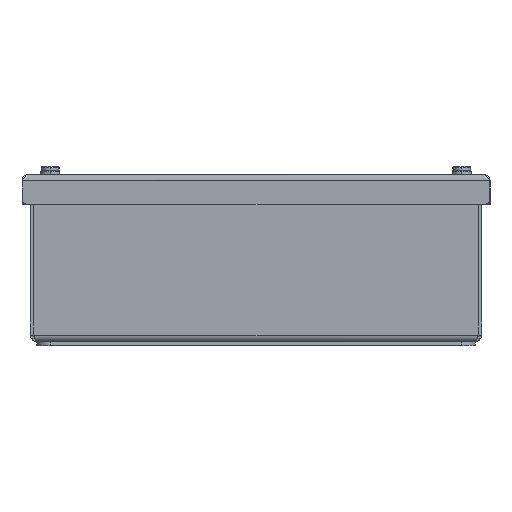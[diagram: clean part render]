
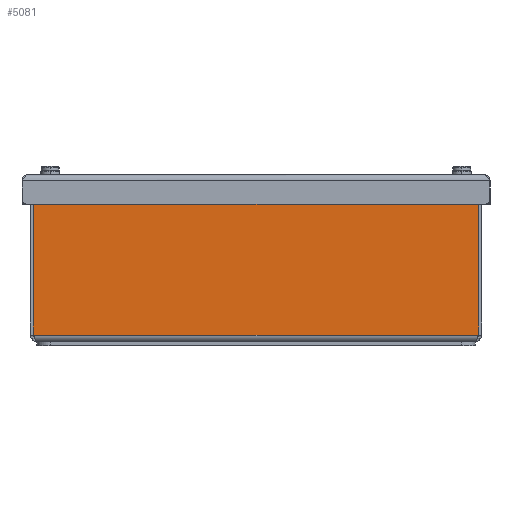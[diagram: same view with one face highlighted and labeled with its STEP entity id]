
A CAD part, left-side view. The second image highlights one B-rep face of the part: STEP entity #5081.
In plain terms, the highlighted planar face has unit normal (-1, 0, 0).
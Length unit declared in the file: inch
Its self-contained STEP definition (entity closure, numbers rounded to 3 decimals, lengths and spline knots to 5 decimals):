
#1255=DIRECTION('',(0.,-1.,0.));
#1256=VECTOR('',#1255,8.37033);
#1257=CARTESIAN_POINT('',(0.,8.43516,0.12));
#1258=LINE('',#1257,#1256);
#1341=CARTESIAN_POINT('',(0.,8.47,0.07744));
#1342=DIRECTION('',(1.,0.,0.));
#1343=DIRECTION('',(0.,-0.54,0.842));
#1344=AXIS2_PLACEMENT_3D('',#1341,#1342,#1343);
#1349=DIRECTION('',(0.,0.,1.));
#1350=VECTOR('',#1349,2.81357);
#1351=CARTESIAN_POINT('',(0.,8.4403,0.12373));
#1352=LINE('',#1351,#1350);
#1356=DIRECTION('',(0.,-1.,0.));
#1357=VECTOR('',#1356,0.6278);
#1358=CARTESIAN_POINT('',(0.,8.3778,2.9998));
#1359=LINE('',#1358,#1357);
#1363=DIRECTION('',(0.,0.,1.));
#1364=VECTOR('',#1363,0.1198);
#1365=CARTESIAN_POINT('',(0.,7.75,2.88));
#1366=LINE('',#1365,#1364);
#1370=DIRECTION('',(0.,0.,1.));
#1371=VECTOR('',#1370,0.1198);
#1372=CARTESIAN_POINT('',(0.,0.75,2.88));
#1373=LINE('',#1372,#1371);
#1377=DIRECTION('',(0.,1.,0.));
#1378=VECTOR('',#1377,0.6278);
#1379=CARTESIAN_POINT('',(0.,0.1222,2.9998));
#1380=LINE('',#1379,#1378);
#1384=DIRECTION('',(0.,0.,-1.));
#1385=VECTOR('',#1384,2.81357);
#1386=CARTESIAN_POINT('',(0.,0.0597,2.9373));
#1387=LINE('',#1386,#1385);
#1391=CARTESIAN_POINT('',(0.,0.03,0.07744));
#1392=DIRECTION('',(1.,0.,0.));
#1393=DIRECTION('',(0.,0.633,0.774));
#1394=AXIS2_PLACEMENT_3D('',#1391,#1392,#1393);
#2919=CARTESIAN_POINT('',(0.,8.3778,2.9373));
#2920=DIRECTION('',(-1.,0.,0.));
#2921=DIRECTION('',(0.,0.,1.));
#2922=AXIS2_PLACEMENT_3D('',#2919,#2920,#2921);
#2987=DIRECTION('',(0.,-1.,0.));
#2988=VECTOR('',#2987,7.);
#2989=CARTESIAN_POINT('',(0.,7.75,2.88));
#2990=LINE('',#2989,#2988);
#3153=CARTESIAN_POINT('',(0.,0.1222,2.9373));
#3154=DIRECTION('',(-1.,0.,0.));
#3155=DIRECTION('',(0.,-1.,0.));
#3156=AXIS2_PLACEMENT_3D('',#3153,#3154,#3155);
#3312=CARTESIAN_POINT('',(0.,8.3778,2.9998));
#3314=VERTEX_POINT('',#3312);
#3315=CARTESIAN_POINT('',(0.,8.4403,2.9373));
#3316=VERTEX_POINT('',#3315);
#3320=CARTESIAN_POINT('',(0.,0.0597,2.9373));
#3322=VERTEX_POINT('',#3320);
#3323=CARTESIAN_POINT('',(0.,0.1222,2.9998));
#3324=VERTEX_POINT('',#3323);
#3335=CARTESIAN_POINT('',(0.,0.75,2.9998));
#3336=VERTEX_POINT('',#3335);
#3339=CARTESIAN_POINT('',(0.,7.75,2.9998));
#3340=VERTEX_POINT('',#3339);
#3459=CARTESIAN_POINT('',(0.,8.4403,0.12373));
#3461=VERTEX_POINT('',#3459);
#3463=CARTESIAN_POINT('',(0.,0.0597,0.12373));
#3465=VERTEX_POINT('',#3463);
#3512=CARTESIAN_POINT('',(0.,0.06484,0.12));
#3513=VERTEX_POINT('',#3512);
#3514=CARTESIAN_POINT('',(0.,8.43516,0.12));
#3515=VERTEX_POINT('',#3514);
#3627=CARTESIAN_POINT('',(0.,0.75,2.88));
#3628=VERTEX_POINT('',#3627);
#3631=CARTESIAN_POINT('',(0.,7.75,2.88));
#3632=VERTEX_POINT('',#3631);
#5052=CARTESIAN_POINT('',(0.,8.5,0.));
#5053=DIRECTION('',(-1.,0.,0.));
#5054=DIRECTION('',(0.,-1.,0.));
#5055=AXIS2_PLACEMENT_3D('',#5052,#5053,#5054);
#5056=PLANE('',#5055);
#5057=ORIENTED_EDGE('',*,*,#5039,.F.);
#5059=ORIENTED_EDGE('',*,*,#5058,.F.);
#5061=ORIENTED_EDGE('',*,*,#5060,.T.);
#5063=ORIENTED_EDGE('',*,*,#5062,.F.);
#5065=ORIENTED_EDGE('',*,*,#5064,.T.);
#5067=ORIENTED_EDGE('',*,*,#5066,.F.);
#5069=ORIENTED_EDGE('',*,*,#5068,.T.);
#5071=ORIENTED_EDGE('',*,*,#5070,.T.);
#5073=ORIENTED_EDGE('',*,*,#5072,.F.);
#5075=ORIENTED_EDGE('',*,*,#5074,.F.);
#5077=ORIENTED_EDGE('',*,*,#5076,.T.);
#5078=ORIENTED_EDGE('',*,*,#4356,.F.);
#5079=EDGE_LOOP('',(#5057,#5059,#5061,#5063,#5065,#5067,#5069,#5071,#5073,#5075,
#5077,#5078));
#5080=FACE_OUTER_BOUND('',#5079,.F.);
#1345=CIRCLE('',#1344,0.055);
#1395=CIRCLE('',#1394,0.055);
#2923=CIRCLE('',#2922,0.0625);
#3157=CIRCLE('',#3156,0.0625);
#4356=EDGE_CURVE('',#3513,#3465,#1395,.T.);
#5039=EDGE_CURVE('',#3515,#3513,#1258,.T.);
#5058=EDGE_CURVE('',#3461,#3515,#1345,.T.);
#5060=EDGE_CURVE('',#3461,#3316,#1352,.T.);
#5062=EDGE_CURVE('',#3314,#3316,#2923,.T.);
#5064=EDGE_CURVE('',#3314,#3340,#1359,.T.);
#5066=EDGE_CURVE('',#3632,#3340,#1366,.T.);
#5068=EDGE_CURVE('',#3632,#3628,#2990,.T.);
#5070=EDGE_CURVE('',#3628,#3336,#1373,.T.);
#5072=EDGE_CURVE('',#3324,#3336,#1380,.T.);
#5074=EDGE_CURVE('',#3322,#3324,#3157,.T.);
#5076=EDGE_CURVE('',#3322,#3465,#1387,.T.);
#5081=ADVANCED_FACE('',(#5080),#5056,.T.);
